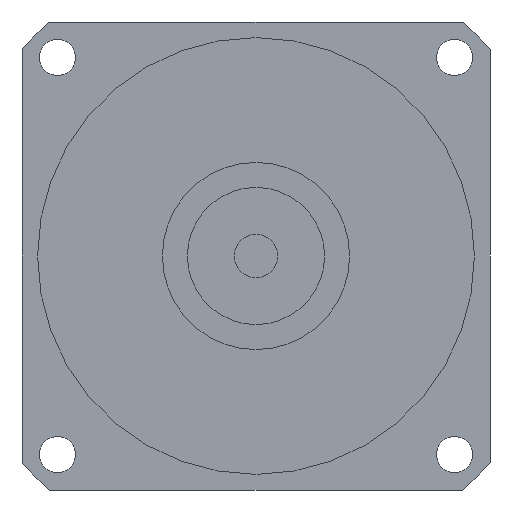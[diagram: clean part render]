
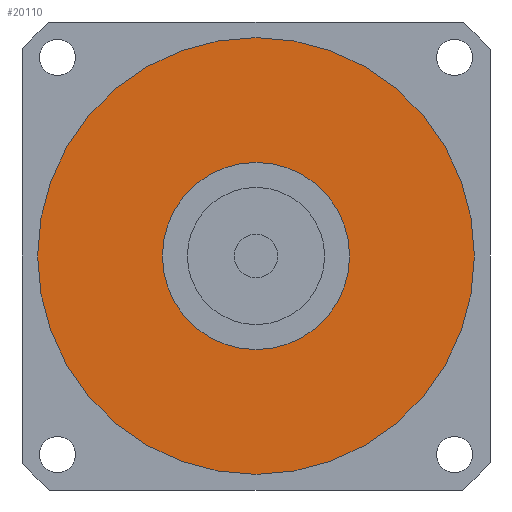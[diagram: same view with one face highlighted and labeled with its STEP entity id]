
A CAD part, left-side view. The second image highlights one B-rep face of the part: STEP entity #20110.
In plain terms, the highlighted planar face has unit normal (-1, 0, 0) as drawn and (0, 0, -1) by its records, which use the part's own axes.
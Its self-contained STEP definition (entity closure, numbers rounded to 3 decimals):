
#19630=CARTESIAN_POINT('',(0.,35.,-56.5));
#19640=VERTEX_POINT('',#19630);
#19670=CARTESIAN_POINT('',(0.,0.,
-56.5));
#19680=DIRECTION('',(0.,0.,-1.));
#19690=DIRECTION('',(0.,-1.,0.));
#19700=AXIS2_PLACEMENT_3D('',#19670,#19680,#19690);
#19710=CIRCLE('',#19700,35.);
#19720=CARTESIAN_POINT('',(0.,-35.,-56.5));
#19730=VERTEX_POINT('',#19720);
#19740=EDGE_CURVE('',#19640,#19730,#19710,.T.);
#19860=CARTESIAN_POINT('',(18.513,-16.263,-56.5));
#19870=DIRECTION('',(0.,0.,-1.));
#19880=DIRECTION('',(0.,-1.,0.));
#19890=AXIS2_PLACEMENT_3D('',#19860,#19870,#19880);
#19900=PLANE('',#19890);
#19910=CARTESIAN_POINT('',(0.,0.,
-56.5));
#19920=DIRECTION('',(0.,0.,1.));
#19930=DIRECTION('',(1.,0.,0.));
#19940=AXIS2_PLACEMENT_3D('',#19910,#19920,#19930);
#19950=CIRCLE('',#19940,15.);
#19960=CARTESIAN_POINT('',(15.,0.,-56.5));
#19970=VERTEX_POINT('',#19960);
#19980=CARTESIAN_POINT('',(-15.,0.,-56.5));
#19990=VERTEX_POINT('',#19980);
#20000=EDGE_CURVE('',#19970,#19990,#19950,.T.);
#20010=ORIENTED_EDGE('',*,*,#20000,.T.);
#20020=EDGE_CURVE('',#19990,#19970,#19950,.T.);
#20030=ORIENTED_EDGE('',*,*,#20020,.T.);
#20040=EDGE_LOOP('',(#20030,#20010));
#20050=FACE_BOUND('',#20040,.T.);
#20060=EDGE_CURVE('',#19730,#19640,#19710,.T.);
#20070=ORIENTED_EDGE('',*,*,#20060,.T.);
#20080=ORIENTED_EDGE('',*,*,#19740,.T.);
#20090=EDGE_LOOP('',(#20080,#20070));
#20100=FACE_OUTER_BOUND('',#20090,.T.);
#20110=ADVANCED_FACE('',(#20050,#20100),#19900,.T.);
